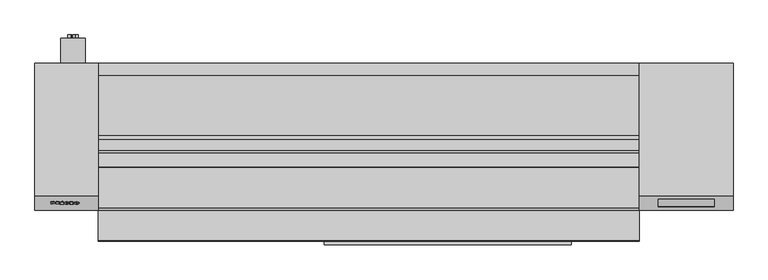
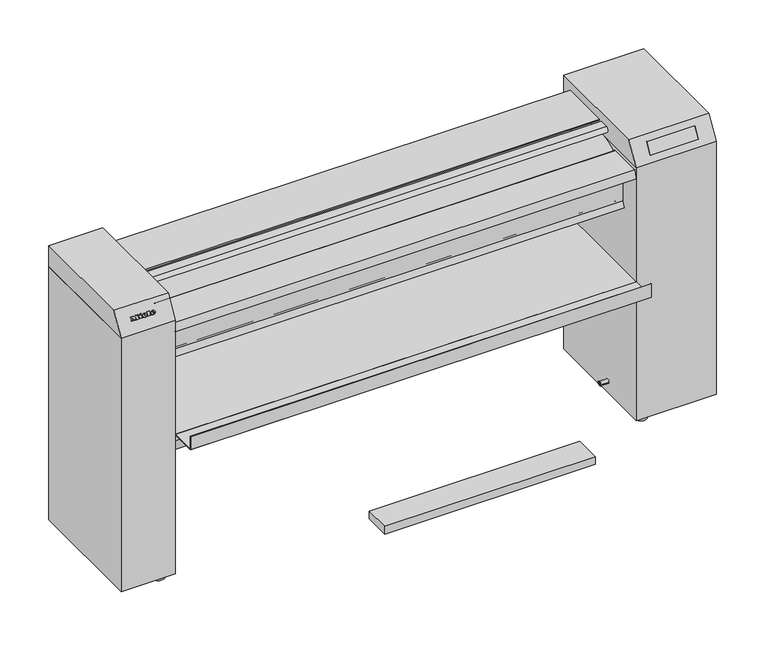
"""IFC4 building model written with IfcOpenShell, lengths in millimetres: proxy geometry, 11744740_EU_PRI217EL_STW : 53217009_EU_11744740_PRI217EL_STW."""

from ifc_helpers import new_model, si_unit, point, frame, frame_2d, origin, place, context, project, spatial, polyline, circle_curve, ellipse_curve, trimmed, segment, composite_curve, outline, extrude, faceted_brep, source, transform, mapped, element, save
from ifc_brep_helpers import plane_surface, cylinder_surface, revolved_surface, extruded_surface, advanced_brep


def specialty_equipment_8e6d1a1f(model_context):
    return source(origin(), model_context, "Body", "SolidModel", [
        advanced_brep(
        [(-985.0, -447.9628564, 1068.1147868), (-985.0, -447.2053564, 1069.4268153), (-974.965, -447.2053564, 1069.4268153), (-992.425, -447.2053564, 1069.4268153), (-988.3, -449.7403564, 1065.0360665), (-975.22, -447.9628564, 1068.1147868), (-979.75, -447.9628564, 1068.1147868), (-983.32, -448.8028564, 1066.6598641), (-985.0, -446.2453564, 1071.0895841), (-985.0, -445.4278564, 1072.5055356), (-982.435, -445.4278564, 1072.5055356), (-982.435, -446.2453564, 1071.0895841), (-985.0, -447.096831, 1067.6147868), (-983.32, -447.936831, 1066.1598641), (-979.75, -447.096831, 1067.6147868), (-975.22, -447.096831, 1067.6147868), (-988.3, -448.874331, 1064.5360665), (-992.425, -446.339331, 1068.9268153), (-974.965, -446.339331, 1068.9268153), (-985.0, -446.339331, 1068.9268153), (-985.0, -445.379331, 1070.5895841), (-982.435, -445.379331, 1070.5895841), (-982.435, -444.561831, 1072.0055356), (-985.0, -444.561831, 1072.0055356)],
        [
            (0, 1),
            (1, 2),
            (2, 3, ellipse_curve(frame((-983.695, -447.2053564, 1069.4268153), z_axis=(0.0, -0.8660254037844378, 0.5000000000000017), x_axis=(-1.0, 0.0, 0.0)), 8.73, 7.215)),
            (3, 4, circle_curve(frame((-986.6199182, -446.9503564, 1069.8684883), z_axis=(0.0, -0.8660254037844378, 0.5000000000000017), x_axis=(0.0, -0.5000000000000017, -0.8660254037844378)), 5.8274415)),
            (4, 5, circle_curve(frame((-983.869762, -444.9703564, 1073.2979489), z_axis=(0.0, -0.8660254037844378, 0.5000000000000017), x_axis=(0.0, -0.5000000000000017, -0.8660254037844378)), 10.5184889)),
            (5, 6),
            (6, 7, circle_curve(frame((-982.5867647, -447.2653564, 1069.3228923), z_axis=(0.0, 0.8660254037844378, -0.5000000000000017), x_axis=(0.0, -0.5000000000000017, -0.8660254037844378)), 3.1612116)),
            (7, 0, circle_curve(frame((-983.32, -447.9628564, 1068.1147868), z_axis=(0.0, 0.8660254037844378, -0.5000000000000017), x_axis=(0.0, -0.5000000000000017, -0.8660254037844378)), 1.68)),
            (8, 9),
            (9, 10, circle_curve(frame((-983.7175, -445.4278564, 1072.5055356), z_axis=(0.0, 0.8660254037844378, -0.5000000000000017), x_axis=(0.0, -0.5000000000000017, -0.8660254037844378)), 1.2825)),
            (10, 11),
            (11, 8),
            (12, 13, circle_curve(frame((-983.32, -447.096831, 1067.6147868), z_axis=(0.0, -0.8660254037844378, 0.5000000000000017), x_axis=(0.0, -0.5000000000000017, -0.8660254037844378)), 1.68)),
            (13, 14, circle_curve(frame((-982.5867647, -446.399331, 1068.8228923), z_axis=(0.0, -0.8660254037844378, 0.5000000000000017), x_axis=(0.0, -0.5000000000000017, -0.8660254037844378)), 3.1612116)),
            (14, 15),
            (15, 16, circle_curve(frame((-983.869762, -444.104331, 1072.7979489), z_axis=(0.0, 0.8660254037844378, -0.5000000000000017), x_axis=(0.0, -0.5000000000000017, -0.8660254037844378)), 10.5184889)),
            (16, 17, circle_curve(frame((-986.6199182, -446.084331, 1069.3684883), z_axis=(0.0, 0.8660254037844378, -0.5000000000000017), x_axis=(0.0, -0.5000000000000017, -0.8660254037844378)), 5.8274415)),
            (17, 18, ellipse_curve(frame((-983.695, -446.339331, 1068.9268153), z_axis=(0.0, 0.8660254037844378, -0.5000000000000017), x_axis=(-1.0, 0.0, 0.0)), 8.73, 7.215)),
            (18, 19),
            (19, 12),
            (20, 21),
            (21, 22),
            (22, 23, circle_curve(frame((-983.7175, -444.561831, 1072.0055356), z_axis=(0.0, -0.8660254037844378, 0.5000000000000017), x_axis=(0.0, -0.5000000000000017, -0.8660254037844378)), 1.2825)),
            (23, 20),
            (0, 12),
            (19, 1),
            (18, 2),
            (5, 15),
            (14, 6),
            (17, 3),
            (13, 7),
            (16, 4),
            (8, 20),
            (23, 9),
            (22, 10),
            (21, 11),
        ],
        [
            plane_surface(frame((-985.0, -447.2053564, 1069.4268153), z_axis=(0.0, -0.8660254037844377, 0.5000000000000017), x_axis=(0.0, 0.5000000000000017, 0.8660254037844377))),
            plane_surface(frame((-985.0, -446.339331, 1068.9268153), z_axis=(0.0, 0.8660254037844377, -0.5000000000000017), x_axis=(0.0, -0.5000000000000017, -0.8660254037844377))),
            plane_surface(frame((-985.0, -447.9628564, 1068.1147868), z_axis=(1.0, 0.0, 0.0), x_axis=(0.0, 0.866025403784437, -0.5000000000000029))),
            plane_surface(frame((-985.0, -447.2053564, 1069.4268153), z_axis=(0.0, -0.5000000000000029, -0.866025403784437), x_axis=(0.0, 0.866025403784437, -0.5000000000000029))),
            plane_surface(frame((-975.22, -447.9628564, 1068.1147868), z_axis=(0.0, 0.5000000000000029, 0.866025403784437), x_axis=(0.0, 0.866025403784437, -0.5000000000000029))),
            extruded_surface(trimmed(ellipse_curve(frame((-983.695, -445.4733056, 1068.4268153), z_axis=(0.0, -0.8660254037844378, 0.5000000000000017), x_axis=(-1.0, 0.0, 0.0)), 8.73, 7.215), [point((-974.965, -445.4733056, 1068.4268153))], [point((-992.425, -445.4733056, 1068.4268153))], True, "CARTESIAN"), (0.0, -0.8660254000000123, 0.5), 0.9999999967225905),
            revolved_surface(polyline([(-982.5867647, -447.97993676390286, 1066.0852027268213), (-982.5867647, -448.8459622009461, 1066.5852027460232)]), (-982.5867647, -446.399331, 1068.8228923), (0.0, 0.8660254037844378, -0.5000000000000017)),
            revolved_surface(polyline([(-983.32, -447.93683099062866, 1066.1598641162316), (-983.32, -448.8028564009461, 1066.6598641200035)]), (-983.32, -447.096831, 1067.6147868), (0.0, 0.8660254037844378, -0.5000000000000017)),
            cylinder_surface(frame((-986.6199182, -446.084331, 1069.3684883), z_axis=(0.0, -0.8660254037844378, 0.5000000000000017), x_axis=(0.0, -0.5000000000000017, -0.8660254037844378)), 5.8274415),
            cylinder_surface(frame((-983.869762, -444.104331, 1072.7979489), z_axis=(0.0, -0.8660254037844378, 0.5000000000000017), x_axis=(0.0, -0.5000000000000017, -0.8660254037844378)), 10.5184889),
            plane_surface(frame((-985.0, -446.2453564, 1071.0895841), z_axis=(1.0, 0.0, 0.0), x_axis=(0.0, 0.866025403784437, -0.5000000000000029))),
            revolved_surface(polyline([(-983.7175, -445.203081, 1070.8948580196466), (-983.7175, -446.0691064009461, 1071.3948580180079)]), (-983.7175, -444.561831, 1072.0055356), (0.0, 0.8660254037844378, -0.5000000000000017)),
            plane_surface(frame((-982.435, -445.4278564, 1072.5055356), z_axis=(-1.0, 0.0, 0.0), x_axis=(0.0, 0.866025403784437, -0.5000000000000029))),
            plane_surface(frame((-982.435, -446.2453564, 1071.0895841), z_axis=(0.0, 0.5000000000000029, 0.866025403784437), x_axis=(0.0, 0.866025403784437, -0.5000000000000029))),
        ],
        [
            (0, [[1, 2, 3, 4, 5, 6, 7, 8], [9, 10, 11, 12]]),
            (1, [[13, 14, 15, 16, 17, 18, 19, 20], [21, 22, 23, 24]]),
            (2, [[-1, 25, -20, 26]]),
            (3, [[-2, -26, -19, 27]]),
            (4, [[-6, 28, -15, 29]]),
            (5, [[-3, -27, -18, 30]]),
            (6, [[-7, -29, -14, 31]]),
            (7, [[-8, -31, -13, -25]]),
            (8, [[-4, -30, -17, 32]]),
            (9, [[-5, -32, -16, -28]]),
            (10, [[-9, 33, -24, 34]]),
            (11, [[-10, -34, -23, 35]]),
            (12, [[-11, -35, -22, 36]]),
            (13, [[-12, -36, -21, -33]]),
        ],
    ),
        advanced_brep(
        [(-1016.305, -448.0039703, 1068.3446008), (-1016.305, -447.2464703, 1069.6566293), (-1006.27, -447.2464703, 1069.6566293), (-1023.73, -447.2464703, 1069.6566293), (-1019.605, -449.7814703, 1065.2658805), (-1006.525, -448.0039703, 1068.3446008), (-1011.055, -448.0039703, 1068.3446008), (-1014.625, -448.8439703, 1066.8896781), (-1016.305, -446.2864703, 1071.3193981), (-1016.305, -445.4689703, 1072.7353496), (-1013.74, -445.4689703, 1072.7353496), (-1013.74, -446.2864703, 1071.3193981), (-1016.305, -447.1379449, 1067.8446008), (-1014.625, -447.9779449, 1066.3896781), (-1011.055, -447.1379449, 1067.8446008), (-1006.525, -447.1379449, 1067.8446008), (-1019.605, -448.9154449, 1064.7658805), (-1023.73, -446.3804449, 1069.1566293), (-1006.27, -446.3804449, 1069.1566293), (-1016.305, -446.3804449, 1069.1566293), (-1016.305, -445.4204449, 1070.8193981), (-1013.74, -445.4204449, 1070.8193981), (-1013.74, -444.6029449, 1072.2353496), (-1016.305, -444.6029449, 1072.2353496)],
        [
            (0, 1),
            (1, 2),
            (2, 3, ellipse_curve(frame((-1015.0, -447.2464703, 1069.6566293), z_axis=(0.0, -0.8660254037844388, 0.4999999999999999), x_axis=(-1.0, 0.0, 0.0)), 8.73, 7.215)),
            (3, 4, circle_curve(frame((-1017.9249182, -446.9914703, 1070.0983022), z_axis=(0.0, -0.8660254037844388, 0.4999999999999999), x_axis=(0.0, -0.4999999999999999, -0.8660254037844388)), 5.8274415)),
            (4, 5, circle_curve(frame((-1015.174762, -445.0114703, 1073.5277628), z_axis=(0.0, -0.8660254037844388, 0.4999999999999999), x_axis=(0.0, -0.4999999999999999, -0.8660254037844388)), 10.5184889)),
            (5, 6),
            (6, 7, circle_curve(frame((-1013.8917647, -447.3064703, 1069.5527062), z_axis=(0.0, 0.8660254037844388, -0.4999999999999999), x_axis=(0.0, -0.4999999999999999, -0.8660254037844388)), 3.1612116)),
            (7, 0, circle_curve(frame((-1014.625, -448.0039703, 1068.3446008), z_axis=(0.0, 0.8660254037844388, -0.4999999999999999), x_axis=(0.0, -0.4999999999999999, -0.8660254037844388)), 1.68)),
            (8, 9),
            (9, 10, circle_curve(frame((-1015.0225, -445.4689703, 1072.7353496), z_axis=(0.0, 0.8660254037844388, -0.4999999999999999), x_axis=(0.0, -0.4999999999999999, -0.8660254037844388)), 1.2825)),
            (10, 11),
            (11, 8),
            (12, 13, circle_curve(frame((-1014.625, -447.1379449, 1067.8446008), z_axis=(0.0, -0.8660254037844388, 0.4999999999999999), x_axis=(0.0, -0.4999999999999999, -0.8660254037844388)), 1.68)),
            (13, 14, circle_curve(frame((-1013.8917647, -446.4404449, 1069.0527062), z_axis=(0.0, -0.8660254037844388, 0.4999999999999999), x_axis=(0.0, -0.4999999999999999, -0.8660254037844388)), 3.1612116)),
            (14, 15),
            (15, 16, circle_curve(frame((-1015.174762, -444.1454449, 1073.0277628), z_axis=(0.0, 0.8660254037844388, -0.4999999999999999), x_axis=(0.0, -0.4999999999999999, -0.8660254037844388)), 10.5184889)),
            (16, 17, circle_curve(frame((-1017.9249182, -446.1254449, 1069.5983022), z_axis=(0.0, 0.8660254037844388, -0.4999999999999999), x_axis=(0.0, -0.4999999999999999, -0.8660254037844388)), 5.8274415)),
            (17, 18, ellipse_curve(frame((-1015.0, -446.3804449, 1069.1566293), z_axis=(0.0, 0.8660254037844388, -0.4999999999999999), x_axis=(-1.0, 0.0, 0.0)), 8.73, 7.215)),
            (18, 19),
            (19, 12),
            (20, 21),
            (21, 22),
            (22, 23, circle_curve(frame((-1015.0225, -444.6029449, 1072.2353496), z_axis=(0.0, -0.8660254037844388, 0.4999999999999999), x_axis=(0.0, -0.4999999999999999, -0.8660254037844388)), 1.2825)),
            (23, 20),
            (0, 12),
            (19, 1),
            (18, 2),
            (5, 15),
            (14, 6),
            (17, 3),
            (13, 7),
            (16, 4),
            (8, 20),
            (23, 9),
            (22, 10),
            (21, 11),
        ],
        [
            plane_surface(frame((-1016.305, -447.2464703, 1069.6566293), z_axis=(0.0, -0.8660254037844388, 0.49999999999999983), x_axis=(0.0, 0.49999999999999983, 0.8660254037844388))),
            plane_surface(frame((-1016.305, -446.3804449, 1069.1566293), z_axis=(0.0, 0.8660254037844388, -0.49999999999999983), x_axis=(0.0, -0.49999999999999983, -0.8660254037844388))),
            plane_surface(frame((-1016.305, -448.0039703, 1068.3446008), z_axis=(1.0, 0.0, 0.0), x_axis=(0.0, 0.866025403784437, -0.5000000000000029))),
            plane_surface(frame((-1016.305, -447.2464703, 1069.6566293), z_axis=(0.0, -0.5000000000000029, -0.866025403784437), x_axis=(0.0, 0.866025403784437, -0.5000000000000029))),
            plane_surface(frame((-1006.525, -448.0039703, 1068.3446008), z_axis=(0.0, 0.5000000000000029, 0.866025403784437), x_axis=(0.0, 0.866025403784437, -0.5000000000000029))),
            extruded_surface(trimmed(ellipse_curve(frame((-1015.0, -445.5144195, 1068.6566293), z_axis=(0.0, -0.8660254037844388, 0.4999999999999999), x_axis=(-1.0, 0.0, 0.0)), 8.73, 7.215), [point((-1006.27, -445.5144195, 1068.6566293))], [point((-1023.73, -445.5144195, 1068.6566293))], True, "CARTESIAN"), (0.0, -0.8660254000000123, 0.5), 0.9999999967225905),
            revolved_surface(polyline([(-1013.8917647, -448.0210507, 1066.315016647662), (-1013.8917647, -448.88707611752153, 1066.8150166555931)]), (-1013.8917647, -446.4404449, 1069.0527062), (0.0, 0.8660254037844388, -0.4999999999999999)),
            revolved_surface(polyline([(-1014.625, -447.97794489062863, 1066.3896781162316), (-1014.625, -448.84397030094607, 1066.8896781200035)]), (-1014.625, -447.1379449, 1067.8446008), (0.0, 0.8660254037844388, -0.4999999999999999)),
            cylinder_surface(frame((-1017.9249182, -446.1254449, 1069.5983022), z_axis=(0.0, -0.8660254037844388, 0.4999999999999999), x_axis=(0.0, -0.4999999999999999, -0.8660254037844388)), 5.8274415),
            cylinder_surface(frame((-1015.174762, -444.1454449, 1073.0277628), z_axis=(0.0, -0.8660254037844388, 0.4999999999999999), x_axis=(0.0, -0.4999999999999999, -0.8660254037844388)), 10.5184889),
            plane_surface(frame((-1016.305, -446.2864703, 1071.3193981), z_axis=(1.0, 0.0, 0.0), x_axis=(0.0, 0.866025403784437, -0.5000000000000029))),
            revolved_surface(polyline([(-1015.0225, -445.2441949, 1071.1246720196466), (-1015.0225, -446.11022030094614, 1071.624672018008)]), (-1015.0225, -444.6029449, 1072.2353496), (0.0, 0.8660254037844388, -0.4999999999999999)),
            plane_surface(frame((-1013.74, -445.4689703, 1072.7353496), z_axis=(-1.0, 0.0, 0.0), x_axis=(0.0, 0.866025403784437, -0.5000000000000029))),
            plane_surface(frame((-1013.74, -446.2864703, 1071.3193981), z_axis=(0.0, 0.5000000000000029, 0.866025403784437), x_axis=(0.0, 0.866025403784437, -0.5000000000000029))),
        ],
        [
            (0, [[1, 2, 3, 4, 5, 6, 7, 8], [9, 10, 11, 12]]),
            (1, [[13, 14, 15, 16, 17, 18, 19, 20], [21, 22, 23, 24]]),
            (2, [[-1, 25, -20, 26]]),
            (3, [[-2, -26, -19, 27]]),
            (4, [[-6, 28, -15, 29]]),
            (5, [[-3, -27, -18, 30]]),
            (6, [[-7, -29, -14, 31]]),
            (7, [[-8, -31, -13, -25]]),
            (8, [[-4, -30, -17, 32]]),
            (9, [[-5, -32, -16, -28]]),
            (10, [[-9, 33, -24, 34]]),
            (11, [[-10, -34, -23, 35]]),
            (12, [[-11, -35, -22, 36]]),
            (13, [[-12, -36, -21, -33]]),
        ],
    ),
        extrude(outline(polyline([(0.0, 0.0), (-0.0204536, -5.6237427), (-2.6982028, -5.6101628), (-2.6841199, 0.0), (0.0, 0.0)])), frame((-1032.7, -442.1204449, 1076.5351657), z_axis=(0.0, -0.8660254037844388, 0.49999999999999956), x_axis=(-0.42472021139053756, 0.45266233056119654, 0.7840341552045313)), (0.0, 0.0, 1.0), 1.0),
        extrude(outline(polyline([(-0.9251077, 4.5264556), (-5.2126582, -4.6127968), (-13.2112016, -0.8603938), (-13.9502147, -2.4356587), (-16.2316329, -1.3653637), (-11.2050692, 9.3491536), (-8.923651, 8.2788587), (-9.6817766, 6.6628542), (-4.11403, 4.0508249), (-3.3559044, 5.6668294), (-0.9251077, 4.5264556)])), frame((-1032.7, -442.1204449, 1076.5351657), z_axis=(0.0, -0.8660254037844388, 0.49999999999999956), x_axis=(-0.42472021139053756, 0.45266233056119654, 0.7840341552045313)), (0.0, 0.0, 1.0), 1.0),
        extrude(outline(polyline([(0.0, 0.0), (0.0, -2.445), (-10.32, -2.445), (-10.32, 10.0350001), (-12.165, 10.0350001), (-12.165, 12.555), (0.0, 12.555), (0.0, 10.0350001), (-1.8, 10.0350001), (-1.8, 0.0), (0.0, 0.0)])), frame((-1005.43, -442.6907858, 1075.2462809), z_axis=(0.0, -0.8660254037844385, 0.5000000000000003), x_axis=(-1.0, 0.0, 0.0)), (0.0, 0.0, 1.0), 1.0),
        extrude(outline(polyline([(0.0, 0.0), (0.0, -2.4450001), (-10.455, -2.4450001), (-14.85, 3.1799999), (-19.23, -2.4450001), (-28.365, -2.4450001), (-28.365, 0.0), (-26.46, 0.0), (-26.46, 10.035), (-28.365, 10.035), (-28.365, 12.555), (-16.395, 12.555), (-16.395, 10.035), (-18.24, 10.035), (-18.24, 3.3647777), (-11.505, 12.555), (-4.8, 3.6988752), (-4.8, 10.035), (-6.6, 10.035), (-6.6, 12.555), (0.0, 12.555), (0.0, 10.035), (-1.815, 10.035), (-1.815, 0.0), (0.0, 0.0)])), frame((-1066.3, -442.6159576, 1075.3758871), z_axis=(0.0, -0.8660254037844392, 0.4999999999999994), x_axis=(-1.0, 0.0, 0.0)), (0.0, 0.0, 1.0), 1.0),
        extrude(outline(composite_curve([segment(polyline([(-244.0, 1075.4863336), (-244.0, 1038.6103132)]), True, "CONTINUOUS"), segment(trimmed(circle_curve(frame_2d((-245.9233585, 1038.6103132)), 1.9233585), [point((-244.0, 1038.6103132))], [point((-246.9899766, 1037.0098028))], False, "CARTESIAN"), True, "CONTINUOUS"), segment(polyline([(-246.9899766, 1037.0098028), (-279.640261, 1053.6459536)]), True, "CONTINUOUS"), segment(trimmed(circle_curve(frame_2d((-274.2619572, 1064.2014691)), 11.846732), [point((-279.640261, 1053.6459536))], [point((-277.8670773, 1075.4863336))], False, "CARTESIAN"), True, "CONTINUOUS"), segment(polyline([(-277.8670773, 1075.4863336), (-244.0, 1075.4863336)]), True, "CONTINUOUS")], self_intersect=False)), frame((-913.5, 0.0, 0.0), z_axis=(1.0, 0.0, 0.0), x_axis=(0.0, 1.0, 0.0)), (0.0, 0.0, 1.0), 1730.0),
        extrude(outline(polyline([(-45.0, 903.9863336), (-40.0, 903.9863336), (-40.0, 827.5618723), (-66.0513656, 755.9863336), (-150.9374699, 755.9863336), (-150.9374699, 760.9863336), (-69.5524033, 760.9863336), (-45.0, 828.4435072), (-45.0, 903.9863336)])), frame((-913.5, 0.0, 0.0), z_axis=(1.0, 0.0, 0.0), x_axis=(0.0, 1.0, 0.0)), (0.0, 0.0, 1.0), 1730.0),
        extrude(outline(polyline([(-40.0, 1075.4863336), (-40.0, 903.9863336), (-45.0, 903.9863336), (-45.0, 1070.4863336), (-230.0, 1070.4863336), (-230.0, 1075.4863336), (-40.0, 1075.4863336)])), frame((-913.5, 0.0, 0.0), z_axis=(1.0, 0.0, 0.0), x_axis=(0.0, 1.0, 0.0)), (0.0, 0.0, 1.0), 1730.0),
        extrude(outline(polyline([(-380.0, 963.9863336), (-380.0, 843.9863336), (-390.0, 823.9863336), (-380.0, 823.9863336), (-380.0, 821.9863336), (-393.236068, 821.9863336), (-382.0, 844.4584696), (-382.0, 963.5141977), (-391.490712, 982.4956216), (-392.236068, 983.9863336), (-390.0, 983.9863336), (-380.0, 963.9863336)])), frame((-913.5, 0.0, 0.0), z_axis=(1.0, 0.0, 0.0), x_axis=(0.0, 1.0, 0.0)), (0.0, 0.0, 1.0), 1730.0),
        extrude(outline(composite_curve([segment(polyline([(-343.1569398, 983.9863336), (-470.0, 983.9863336), (-461.0, 1013.9863336), (-334.0, 1013.9863336)]), True, "CONTINUOUS"), segment(trimmed(circle_curve(frame_2d((-334.0, 1011.5509296)), 2.435404), [point((-334.0, 1013.9863336))], [point((-332.2336065, 1009.8743119))], False, "CARTESIAN"), True, "CONTINUOUS"), segment(polyline([(-332.2336065, 1009.8743119), (-339.1604985, 986.7846719), (-343.1569398, 983.9863336)]), True, "CONTINUOUS")], self_intersect=False)), frame((-913.5, 0.0, 0.0), z_axis=(1.0, 0.0, 0.0), x_axis=(0.0, 1.0, 0.0)), (0.0, 0.0, 1.0), 1730.0),
        extrude(outline(polyline([(599.5, -480.0), (599.5, -580.0), (-190.5, -580.0), (-190.5, -480.0), (599.5, -480.0)])), frame((0.0, 0.0, -6.0136664), z_axis=(0.0, 0.0, 1.0), x_axis=(1.0, 0.0, 0.0)), (0.0, 0.0, 1.0), 30.0),
        extrude(outline(polyline([(-422.6572779, 1109.9863336), (0.0, 1109.9863336), (0.0, 1027.9863336), (-470.0, 1027.9863336), (-422.6572779, 1109.9863336)])), frame((-1116.5, 0.0, 0.0), z_axis=(1.0, 0.0, 0.0), x_axis=(0.0, 1.0, 0.0)), (0.0, 0.0, 1.0), 203.0),
        extrude(outline(polyline([(424.6662565, -977.40575), (444.7575185, -985.4255775), (444.7575185, -987.5641981), (424.6662565, -995.5840256), (424.6662565, -992.9303702), (430.9447758, -990.6298814), (430.9447758, -982.3549891), (424.6662565, -980.0594054), (424.6662565, -977.40575)]), holes=[polyline([(433.4561836, -983.2771466), (433.4561836, -989.712629), (438.3956125, -987.9026496), (442.2461107, -986.4948878), (438.8272607, -985.244089), (433.4561836, -983.2771466)])]), frame((0.0, 81.0, 0.0), z_axis=(0.0, 1.0, 0.0), x_axis=(0.0, 0.0, 1.0)), (0.0, 0.0, 1.0), 10.0),
        extrude(outline(polyline([(424.6662565, -998.2671116), (444.7575185, -998.2671116), (444.7575185, -1000.7785194), (427.1776642, -1000.7785194), (427.1776642, -1010.8241504), (424.6662565, -1010.8241504), (424.6662565, -998.2671116)])), frame((0.0, 81.0, 0.0), z_axis=(0.0, 1.0, 0.0), x_axis=(0.0, 0.0, 1.0)), (0.0, 0.0, 1.0), 10.0),
        extrude(outline(composite_curve([segment(trimmed(circle_curve(frame_2d((435.9863336, -994.5)), 39.0), [point((435.9863336, -1033.5))], [point((435.9863336, -955.5))], False, "CARTESIAN"), True, "CONTINUOUS"), segment(trimmed(circle_curve(frame_2d((435.9863336, -994.5)), 39.0), [point((435.9863336, -955.5))], [point((435.9863336, -1033.5))], False, "CARTESIAN"), True, "CONTINUOUS")], self_intersect=False), holes=[composite_curve([segment(trimmed(circle_curve(frame_2d((435.9863336, -994.5)), 33.5), [point((435.9863336, -1028.0))], [point((435.9863336, -961.0))], True, "CARTESIAN"), True, "CONTINUOUS"), segment(trimmed(circle_curve(frame_2d((435.9863336, -994.5)), 33.5), [point((435.9863336, -961.0))], [point((435.9863336, -1028.0))], True, "CARTESIAN"), True, "CONTINUOUS")], self_intersect=False)]), frame((0.0, 0.0, 0.0), z_axis=(0.0, 1.0, 0.0), x_axis=(0.0, 0.0, 1.0)), (0.0, 0.0, 1.0), 81.0),
        extrude(outline(composite_curve([segment(trimmed(circle_curve(frame_2d((-953.9685993, -40.5)), 21.5), [point((-975.4685993, -40.5))], [point((-932.4685993, -40.5))], False, "CARTESIAN"), True, "CONTINUOUS"), segment(trimmed(circle_curve(frame_2d((-953.9685993, -40.5)), 21.5), [point((-932.4685993, -40.5))], [point((-975.4685993, -40.5))], False, "CARTESIAN"), True, "CONTINUOUS")], self_intersect=False)), frame((0.0, 0.0, -0.0136664), z_axis=(0.0, 0.0, 1.0), x_axis=(1.0, 0.0, 0.0)), (0.0, 0.0, 1.0), 23.0),
        extrude(outline(composite_curve([segment(trimmed(circle_curve(frame_2d((-953.9685993, -429.5)), 21.5), [point((-975.4685993, -429.5))], [point((-932.4685993, -429.5))], False, "CARTESIAN"), True, "CONTINUOUS"), segment(trimmed(circle_curve(frame_2d((-953.9685993, -429.5)), 21.5), [point((-932.4685993, -429.5))], [point((-975.4685993, -429.5))], False, "CARTESIAN"), True, "CONTINUOUS")], self_intersect=False)), frame((0.0, 0.0, -0.0136664), z_axis=(0.0, 0.0, 1.0), x_axis=(1.0, 0.0, 0.0)), (0.0, 0.0, 1.0), 23.0),
        extrude(outline(polyline([(-913.5, 0.0), (-913.5, -470.0), (-1116.5, -470.0), (-1116.5, 0.0), (-913.5, 0.0)])), frame((0.0, 0.0, 22.9863336), z_axis=(0.0, 0.0, 1.0), x_axis=(1.0, 0.0, 0.0)), (0.0, 0.0, 1.0), 1005.0),
        faceted_brep([(1116.5, -422.633607, 1109.9863336), (1116.5, -469.9763291, 1027.9863336), (1116.5, 0.0236709, 1027.9863336), (1116.5, 0.0236709, 1109.9863336), (816.5, -422.633607, 1109.9863336), (816.5, 0.0236709, 1109.9863336), (816.5, 0.0236709, 1027.9863336), (816.5, -469.9763291, 1027.9863336), (1056.5, -434.7579627, 1088.9863336), (1056.5, -457.8519735, 1048.9863336), (876.5, -457.8519735, 1048.9863336), (876.5, -434.7579627, 1088.9863336), (1056.5, -432.8523919, 1088.9863336), (1056.5, -455.9464026, 1048.9863336), (876.5, -432.8523919, 1088.9863336), (876.5, -455.9464026, 1048.9863336)], [[[0, 1, 2, 3]], [[4, 5, 6, 7]], [[1, 0, 4, 7], [8, 9, 10, 11]], [[2, 1, 7, 6]], [[3, 2, 6, 5]], [[0, 3, 5, 4]], [[12, 13, 9, 8]], [[14, 11, 10, 15]], [[12, 8, 11, 14]], [[9, 13, 15, 10]], [[13, 12, 14, 15]]]),
        extrude(outline(polyline([(816.5, 0.0236709), (816.5, -468.9763291), (-913.5, -468.9763291), (-913.5, 0.0236709), (816.5, 0.0236709)])), frame((0.0, 0.0, 549.9863336), z_axis=(0.0, 0.0, 1.0), x_axis=(1.0, 0.0, 0.0)), (0.0, 0.0, 1.0), 25.0),
        extrude(outline(polyline([(0.0236709, 369.9863336), (-288.9763291, 369.9863336), (-468.9763291, 549.9863336), (0.0236709, 549.9863336), (0.0236709, 369.9863336)])), frame((-913.5, 0.0, 0.0), z_axis=(1.0, 0.0, 0.0), x_axis=(0.0, 1.0, 0.0)), (0.0, 0.0, 1.0), 1730.0),
        extrude(outline(polyline([(-568.8763291, 573.9863336), (-568.8763291, 626.8577549), (-567.8763291, 626.8577549), (-567.8763291, 574.9863336), (-468.9763291, 574.9863336), (-468.9763291, 573.9863336), (-568.8763291, 573.9863336)])), frame((-913.5, 0.0, 0.0), z_axis=(1.0, 0.0, 0.0), x_axis=(0.0, 1.0, 0.0)), (0.0, 0.0, 1.0), 1730.0),
        extrude(outline(composite_curve([segment(trimmed(circle_curve(frame_2d((857.1327502, -40.4763291)), 21.5), [point((835.6327502, -40.4763291))], [point((878.6327502, -40.4763291))], False, "CARTESIAN"), True, "CONTINUOUS"), segment(trimmed(circle_curve(frame_2d((857.1327502, -40.4763291)), 21.5), [point((878.6327502, -40.4763291))], [point((835.6327502, -40.4763291))], False, "CARTESIAN"), True, "CONTINUOUS")], self_intersect=False)), frame((0.0, 0.0, -0.0136664), z_axis=(0.0, 0.0, 1.0), x_axis=(1.0, 0.0, 0.0)), (0.0, 0.0, 1.0), 25.0),
        extrude(outline(composite_curve([segment(trimmed(circle_curve(frame_2d((857.1327502, -429.4763291)), 21.5), [point((835.6327502, -429.4763291))], [point((878.6327502, -429.4763291))], False, "CARTESIAN"), True, "CONTINUOUS"), segment(trimmed(circle_curve(frame_2d((857.1327502, -429.4763291)), 21.5), [point((878.6327502, -429.4763291))], [point((835.6327502, -429.4763291))], False, "CARTESIAN"), True, "CONTINUOUS")], self_intersect=False)), frame((0.0, 0.0, -0.0136664), z_axis=(0.0, 0.0, 1.0), x_axis=(1.0, 0.0, 0.0)), (0.0, 0.0, 1.0), 25.0),
        extrude(outline(composite_curve([segment(trimmed(circle_curve(frame_2d((-248.9093218, 902.9863336)), 125.0), [point((-373.9093218, 902.9863336))], [point((-123.9093218, 902.9863336))], False, "CARTESIAN"), True, "CONTINUOUS"), segment(trimmed(circle_curve(frame_2d((-248.9093218, 902.9863336)), 125.0), [point((-123.9093218, 902.9863336))], [point((-373.9093218, 902.9863336))], False, "CARTESIAN"), True, "CONTINUOUS")], self_intersect=False), holes=[composite_curve([segment(trimmed(circle_curve(frame_2d((-248.9093218, 902.9863336)), 110.0), [point((-358.9093218, 902.9863336))], [point((-138.9093218, 902.9863336))], True, "CARTESIAN"), True, "CONTINUOUS"), segment(trimmed(circle_curve(frame_2d((-248.9093218, 902.9863336)), 110.0), [point((-138.9093218, 902.9863336))], [point((-358.9093218, 902.9863336))], True, "CARTESIAN"), True, "CONTINUOUS")], self_intersect=False)]), frame((-913.5, 0.0, 0.0), z_axis=(1.0, 0.0, 0.0), x_axis=(0.0, 1.0, 0.0)), (0.0, 0.0, 1.0), 1730.0),
        extrude(outline(polyline([(-277.7879856, 65.1266749), (-285.1652459, 65.1266749), (-285.1652459, 66.3823788), (-279.0436895, 66.3823788), (-279.0436895, 69.6786015), (-284.694357, 69.6786015), (-284.694357, 70.9343053), (-279.0436895, 70.9343053), (-279.0436895, 73.9166021), (-285.0082829, 73.9166021), (-285.0082829, 75.1723059), (-277.7879856, 75.1723059), (-277.7879856, 65.1266749)])), frame((785.5, 0.0, 0.0), z_axis=(1.0, 0.0, 0.0), x_axis=(0.0, 1.0, 0.0)), (0.0, 0.0, 1.0), 1.0),
        extrude(outline(polyline([(-287.0488017, 65.1266749), (-293.3273211, 65.1266749), (-293.3273211, 66.3823788), (-288.3045056, 66.3823788), (-288.3045056, 75.1723059), (-287.0488017, 75.1723059), (-287.0488017, 65.1266749)])), frame((785.5, 0.0, 0.0), z_axis=(1.0, 0.0, 0.0), x_axis=(0.0, 1.0, 0.0)), (0.0, 0.0, 1.0), 1.0),
        extrude(outline(composite_curve([segment(trimmed(circle_curve(frame_2d((-284.9763291, 69.9863336)), 8.0), [point((-292.9763291, 69.9863336))], [point((-276.9763291, 69.9863336))], False, "CARTESIAN"), True, "CONTINUOUS"), segment(trimmed(circle_curve(frame_2d((-284.9763291, 69.9863336)), 8.0), [point((-276.9763291, 69.9863336))], [point((-292.9763291, 69.9863336))], False, "CARTESIAN"), True, "CONTINUOUS")], self_intersect=False)), frame((786.5, 0.0, 0.0), z_axis=(1.0, 0.0, 0.0), x_axis=(0.0, 1.0, 0.0)), (0.0, 0.0, 1.0), 30.0),
        extrude(outline(polyline([(-434.7579627, 1088.9863336), (-432.8523919, 1088.9863336), (-455.9464026, 1048.9863336), (-457.8519735, 1048.9863336), (-434.7579627, 1088.9863336)])), frame((876.5, 0.0, 0.0), z_axis=(1.0, 0.0, 0.0), x_axis=(0.0, 1.0, 0.0)), (0.0, 0.0, 1.0), 180.0),
        extrude(outline(polyline([(1116.5, 0.0236709), (1116.5, -469.9763291), (816.5, -469.9763291), (816.5, 0.0236709), (1116.5, 0.0236709)])), frame((0.0, 0.0, 24.9863336), z_axis=(0.0, 0.0, 1.0), x_axis=(1.0, 0.0, 0.0)), (0.0, 0.0, 1.0), 1003.0),
    ])


if __name__ == "__main__":
    model = new_model("IFC4")
    model_context = context("Model", 3, world=origin())
    ifc_project = project(units=[si_unit("LENGTHUNIT", "METRE", prefix="MILLI")], contexts=[model_context])
    site = spatial("IfcSite", under=ifc_project)
    building = spatial("IfcBuilding", under=site)
    placement = place(None, origin())
    specialty_equipment_shape = specialty_equipment_8e6d1a1f(model_context)
    element("IfcBuildingElementProxy", 1, Name="11744740_EU_PRI217EL_STW : 53217009_EU_11744740_PRI217EL_STW", ObjectType="11744740_EU_PRI217EL_STW : 53217009_EU_11744740_PRI217EL_STW", at=placement, inside=building, context=model_context, shape_type="MappedRepresentation", body=[
        mapped(specialty_equipment_shape, transform((0.0, 0.0, 0.0), x_axis=(1.0, 0.0, 0.0), y_axis=(0.0, 1.0, 0.0), z_axis=(0.0, 0.0, 1.0))),
    ])
    save(model, "model.ifc")
